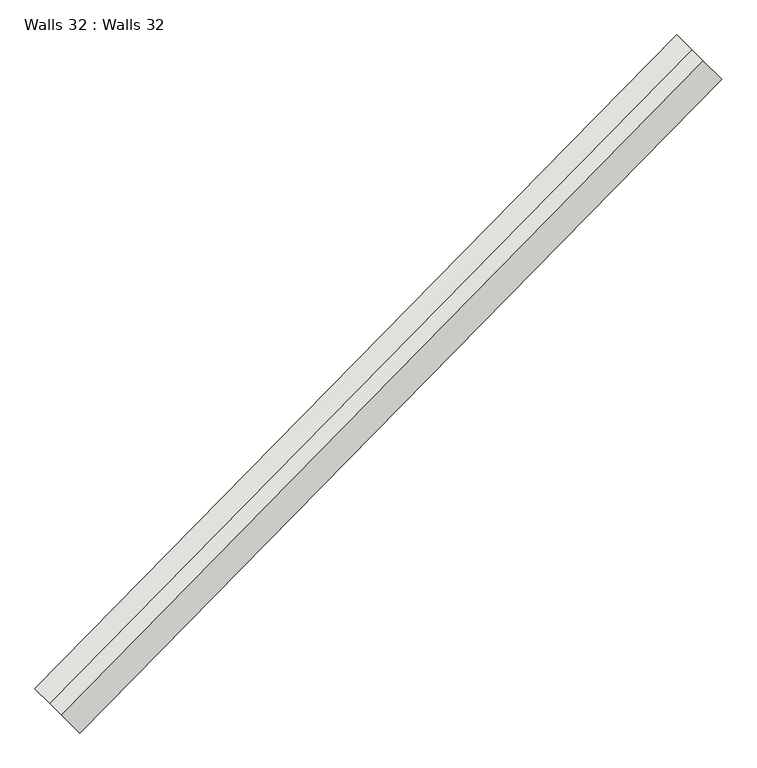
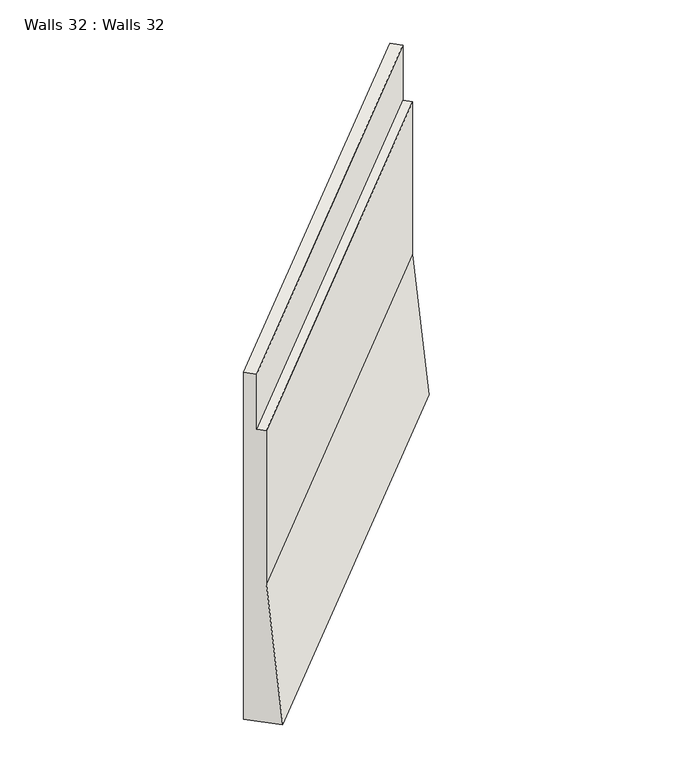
"""IFC4 building model written with IfcOpenShell, lengths in millimetres: wall geometry, Walls 32 : Walls 32."""

from ifc_helpers import new_model, si_unit, origin, place, context, project, spatial, faceted_brep, source, transform, mapped, element, save


def walls_32_walls_32_b94536a7(model_context):
    return source(origin(), model_context, "Body", "Brep", [
        faceted_brep([(-196516.8043299, -356456.4958445, 635960.0), (-196695.2308044, -356281.3808805, 638460.0), (-196695.2308044, -356281.3808805, 641250.0), (-196802.2853782, -356176.3131889, 641250.0), (-196802.2853782, -356176.3131889, 642250.0), (-196945.0248098, -356036.2229333, 642250.0), (-196945.0248098, -356036.2229333, 635960.0), (-190422.8648867, -350247.31699, 636050.0), (-190851.0853666, -349827.0440789, 636050.0), (-190851.0853666, -349827.0440789, 642320.0), (-190708.345935, -349967.1343344, 642320.0), (-190708.345935, -349967.1343344, 641320.0), (-190601.2913613, -350072.2020261, 641320.0), (-190601.2913613, -350072.2020261, 638550.0)], [[[0, 1, 2, 3, 4, 5, 6]], [[7, 8, 9, 10, 11, 12, 13]], [[7, 13, 1, 0]], [[13, 12, 2, 1]], [[12, 11, 3, 2]], [[11, 10, 4, 3]], [[10, 9, 5, 4]], [[9, 8, 6, 5]], [[8, 7, 0, 6]]]),
    ])


if __name__ == "__main__":
    model = new_model("IFC4")
    model_context = context("Model", 3, world=origin())
    ifc_project = project(units=[si_unit("LENGTHUNIT", "METRE", prefix="MILLI")], contexts=[model_context])
    site = spatial("IfcSite", under=ifc_project)
    building = spatial("IfcBuilding", under=site)
    placement = place(None, origin())
    walls_32_walls_32_shape = walls_32_walls_32_b94536a7(model_context)
    element("IfcWall", 1, ObjectType="Walls 32 : Walls 32", at=placement, inside=building, context=model_context, shape_type="MappedRepresentation", body=[
        mapped(walls_32_walls_32_shape, transform((0.0, 0.0, 0.0), x_axis=(1.0, 0.0, 0.0), y_axis=(0.0, 1.0, 0.0), z_axis=(0.0, 0.0, 1.0))),
    ])
    save(model, "model.ifc")
